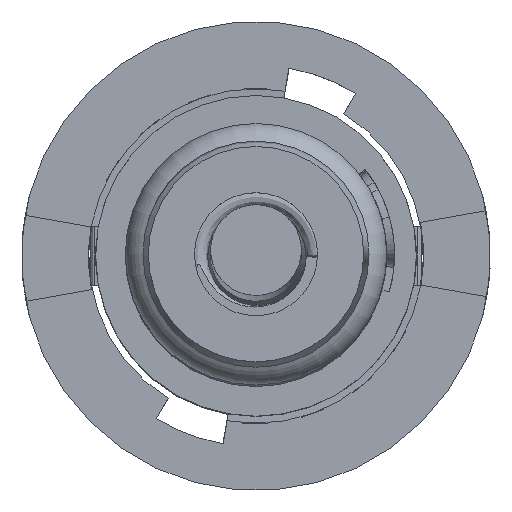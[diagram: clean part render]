
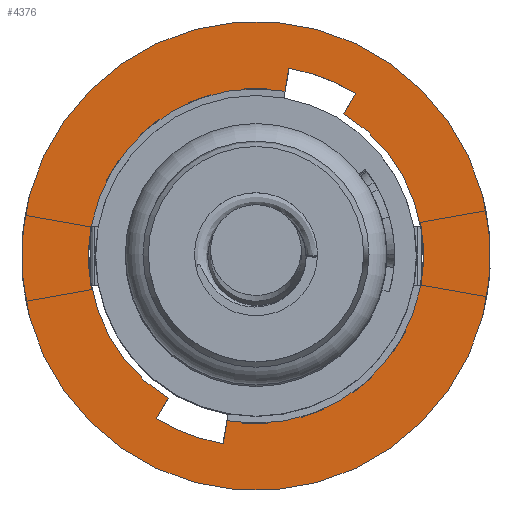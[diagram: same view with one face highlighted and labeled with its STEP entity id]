
A CAD part, top view. The second image highlights one B-rep face of the part: STEP entity #4376.
In plain terms, the highlighted planar face has unit normal (0, 0, 1) as drawn and (0, 1, 0) by its records, which use the part's own axes.
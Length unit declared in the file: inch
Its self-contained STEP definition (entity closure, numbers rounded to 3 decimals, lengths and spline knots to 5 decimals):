
#226=PLANE('',#4744);
#270=FACE_BOUND('',#682,.T.);
#446=FACE_OUTER_BOUND('',#681,.T.);
#681=EDGE_LOOP('',(#3719));
#682=EDGE_LOOP('',(#3720,#3721,#3722,#3723,#3724,#3725,#3726,#3727));
#839=CIRCLE('',#4720,0.305);
#847=CIRCLE('',#4740,0.24794);
#850=CIRCLE('',#4745,0.2175);
#851=CIRCLE('',#4746,0.24794);
#852=CIRCLE('',#4747,0.2175);
#1273=LINE('',#9089,#1589);
#1278=LINE('',#9099,#1594);
#1280=LINE('',#9111,#1596);
#1281=LINE('',#9115,#1597);
#1589=VECTOR('',#5528,0.3937);
#1594=VECTOR('',#5535,0.3937);
#1596=VECTOR('',#5551,0.3937);
#1597=VECTOR('',#5554,0.3937);
#1998=VERTEX_POINT('',#9043);
#2015=VERTEX_POINT('',#9086);
#2016=VERTEX_POINT('',#9088);
#2018=VERTEX_POINT('',#9093);
#2020=VERTEX_POINT('',#9097);
#2022=VERTEX_POINT('',#9108);
#2023=VERTEX_POINT('',#9110);
#2024=VERTEX_POINT('',#9112);
#2025=VERTEX_POINT('',#9114);
#2576=EDGE_CURVE('',#1998,#1998,#839,.T.);
#2598=EDGE_CURVE('',#2016,#2015,#1273,.T.);
#2603=EDGE_CURVE('',#2018,#2020,#1278,.T.);
#2604=EDGE_CURVE('',#2020,#2016,#847,.T.);
#2608=EDGE_CURVE('',#2015,#2022,#850,.T.);
#2609=EDGE_CURVE('',#2022,#2023,#1280,.T.);
#2610=EDGE_CURVE('',#2023,#2024,#851,.T.);
#2611=EDGE_CURVE('',#2024,#2025,#1281,.T.);
#2612=EDGE_CURVE('',#2025,#2018,#852,.T.);
#3719=ORIENTED_EDGE('',*,*,#2576,.F.);
#3720=ORIENTED_EDGE('',*,*,#2603,.T.);
#3721=ORIENTED_EDGE('',*,*,#2604,.T.);
#3722=ORIENTED_EDGE('',*,*,#2598,.T.);
#3723=ORIENTED_EDGE('',*,*,#2608,.T.);
#3724=ORIENTED_EDGE('',*,*,#2609,.T.);
#3725=ORIENTED_EDGE('',*,*,#2610,.T.);
#3726=ORIENTED_EDGE('',*,*,#2611,.T.);
#3727=ORIENTED_EDGE('',*,*,#2612,.T.);
#4376=ADVANCED_FACE('',(#446,#270),#226,.T.);
#4720=AXIS2_PLACEMENT_3D('',#9045,#5484,#5485);
#4740=AXIS2_PLACEMENT_3D('',#9101,#5538,#5539);
#4744=AXIS2_PLACEMENT_3D('',#9107,#5547,#5548);
#4745=AXIS2_PLACEMENT_3D('',#9109,#5549,#5550);
#4746=AXIS2_PLACEMENT_3D('',#9113,#5552,#5553);
#4747=AXIS2_PLACEMENT_3D('',#9116,#5555,#5556);
#5484=DIRECTION('center_axis',(0.,-1.,0.));
#5485=DIRECTION('ref_axis',(1.,0.,0.));
#5528=DIRECTION('',(-0.908,0.,0.418));
#5535=DIRECTION('',(0.698,0.,-0.716));
#5538=DIRECTION('center_axis',(0.,-1.,0.));
#5539=DIRECTION('ref_axis',(0.706,0.,-0.708));
#5547=DIRECTION('center_axis',(0.,1.,0.));
#5548=DIRECTION('ref_axis',(0.,0.,1.));
#5549=DIRECTION('center_axis',(0.,-1.,0.));
#5550=DIRECTION('ref_axis',(1.,0.,0.));
#5551=DIRECTION('',(-0.698,0.,0.716));
#5552=DIRECTION('center_axis',(0.,-1.,0.));
#5553=DIRECTION('ref_axis',(-0.706,0.,0.708));
#5554=DIRECTION('',(0.908,0.,-0.418));
#5555=DIRECTION('center_axis',(0.,-1.,0.));
#5556=DIRECTION('ref_axis',(1.,0.,0.));
#9043=CARTESIAN_POINT('',(-0.305,0.,0.));
#9045=CARTESIAN_POINT('Origin',(0.,0.,0.));
#9086=CARTESIAN_POINT('',(0.19975,0.,-0.08607));
#9088=CARTESIAN_POINT('',(0.22741,0.,-0.0988));
#9089=CARTESIAN_POINT('',(0.09917,0.,-0.03978));
#9093=CARTESIAN_POINT('',(0.15376,0.,-0.15383));
#9097=CARTESIAN_POINT('',(0.17502,0.,-0.17562));
#9099=CARTESIAN_POINT('',(0.08846,0.,-0.08688));
#9101=CARTESIAN_POINT('Origin',(0.,0.,0.));
#9107=CARTESIAN_POINT('Origin',(0.,0.,0.));
#9108=CARTESIAN_POINT('',(-0.15376,0.,0.15383));
#9109=CARTESIAN_POINT('Origin',(0.,0.,0.));
#9110=CARTESIAN_POINT('',(-0.17502,0.,0.17562));
#9111=CARTESIAN_POINT('',(-0.08846,0.,0.08688));
#9112=CARTESIAN_POINT('',(-0.22741,0.,0.0988));
#9113=CARTESIAN_POINT('Origin',(0.,0.,0.));
#9114=CARTESIAN_POINT('',(-0.19975,0.,0.08607));
#9115=CARTESIAN_POINT('',(-0.09917,0.,0.03978));
#9116=CARTESIAN_POINT('Origin',(0.,0.,0.));
